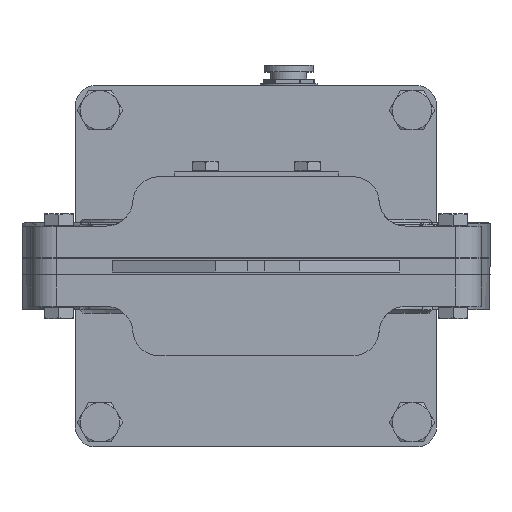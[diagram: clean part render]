
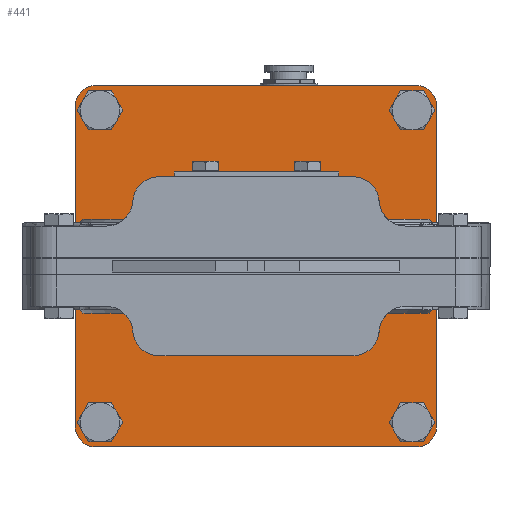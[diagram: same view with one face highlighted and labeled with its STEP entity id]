
A CAD part, front view. The second image highlights one B-rep face of the part: STEP entity #441.
In plain terms, the highlighted planar face has unit normal (0, -1, 0).
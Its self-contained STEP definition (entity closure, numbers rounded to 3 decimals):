
#441=ADVANCED_FACE('',(#15184,#15186,#15188,#15190,#15192,#15194,#15196,#15198,#15200,
#15202),#15204,.F.);
#15184=FACE_BOUND('',#15185,.T.);
#15185=EDGE_LOOP('',(#28787,#28788,#28789,#28790,#28791,#28792,#28793,#28794));
#15186=FACE_BOUND('',#15187,.T.);
#15187=EDGE_LOOP('',(#28795));
#15188=FACE_BOUND('',#15189,.T.);
#15189=EDGE_LOOP('',(#28796));
#15190=FACE_BOUND('',#15191,.T.);
#15191=EDGE_LOOP('',(#28797));
#15192=FACE_BOUND('',#15193,.T.);
#15193=EDGE_LOOP('',(#28798));
#15194=FACE_BOUND('',#15195,.T.);
#15195=EDGE_LOOP('',(#28799));
#15196=FACE_BOUND('',#15197,.T.);
#15197=EDGE_LOOP('',(#28800));
#15198=FACE_BOUND('',#15199,.T.);
#15199=EDGE_LOOP('',(#28801));
#15200=FACE_BOUND('',#15201,.T.);
#15201=EDGE_LOOP('',(#28802));
#15202=FACE_BOUND('',#15203,.T.);
#15203=EDGE_LOOP('',(#28803));
#15204=PLANE('',#15205);
#15205=AXIS2_PLACEMENT_3D('',#15206,#15207,#15208);
#15206=CARTESIAN_POINT('',(0.,513.,0.));
#15207=DIRECTION('',(0.,1.,0.));
#15208=DIRECTION('',(0.,0.,1.));
#28787=ORIENTED_EDGE('',*,*,#37669,.F.);
#28788=ORIENTED_EDGE('',*,*,#37670,.F.);
#28789=ORIENTED_EDGE('',*,*,#37671,.F.);
#28790=ORIENTED_EDGE('',*,*,#37672,.F.);
#28791=ORIENTED_EDGE('',*,*,#37673,.F.);
#28792=ORIENTED_EDGE('',*,*,#37674,.F.);
#28793=ORIENTED_EDGE('',*,*,#37675,.F.);
#28794=ORIENTED_EDGE('',*,*,#37676,.F.);
#28795=ORIENTED_EDGE('',*,*,#37677,.F.);
#28796=ORIENTED_EDGE('',*,*,#37678,.F.);
#28797=ORIENTED_EDGE('',*,*,#37679,.F.);
#28798=ORIENTED_EDGE('',*,*,#37680,.T.);
#28799=ORIENTED_EDGE('',*,*,#37681,.T.);
#28800=ORIENTED_EDGE('',*,*,#37682,.T.);
#28801=ORIENTED_EDGE('',*,*,#37683,.T.);
#28802=ORIENTED_EDGE('',*,*,#37684,.F.);
#28803=ORIENTED_EDGE('',*,*,#37685,.F.);
#37669=EDGE_CURVE('',#41727,#41728,#41729,.T.);
#37670=EDGE_CURVE('',#41730,#41727,#41731,.T.);
#37671=EDGE_CURVE('',#41732,#41730,#41733,.T.);
#37672=EDGE_CURVE('',#41734,#41732,#41735,.T.);
#37673=EDGE_CURVE('',#41736,#41734,#41737,.T.);
#37674=EDGE_CURVE('',#41738,#41736,#41739,.T.);
#37675=EDGE_CURVE('',#41740,#41738,#41741,.T.);
#37676=EDGE_CURVE('',#41728,#41740,#41742,.T.);
#37677=EDGE_CURVE('',#41743,#41743,#41744,.T.);
#37678=EDGE_CURVE('',#41745,#41745,#41746,.F.);
#37679=EDGE_CURVE('',#41747,#41747,#41748,.F.);
#37680=EDGE_CURVE('',#41749,#41749,#41750,.T.);
#37681=EDGE_CURVE('',#41751,#41751,#41752,.T.);
#37682=EDGE_CURVE('',#41753,#41753,#41754,.T.);
#37683=EDGE_CURVE('',#41755,#41755,#41756,.T.);
#37684=EDGE_CURVE('',#41757,#41757,#41758,.F.);
#37685=EDGE_CURVE('',#41759,#41759,#41760,.F.);
#41727=VERTEX_POINT('',#48279);
#41728=VERTEX_POINT('',#48280);
#41729=CIRCLE('',#48281,12.25);
#41730=VERTEX_POINT('',#48285);
#41731=LINE('',#48286,#48287);
#41732=VERTEX_POINT('',#48289);
#41733=CIRCLE('',#48290,12.25);
#41734=VERTEX_POINT('',#48294);
#41735=LINE('',#48295,#48296);
#41736=VERTEX_POINT('',#48298);
#41737=CIRCLE('',#48299,12.25);
#41738=VERTEX_POINT('',#48303);
#41739=LINE('',#48304,#48305);
#41740=VERTEX_POINT('',#48307);
#41741=CIRCLE('',#48308,12.25);
#41742=LINE('',#48312,#48313);
#41743=VERTEX_POINT('',#48315);
#41744=CIRCLE('',#48316,40.);
#41745=VERTEX_POINT('',#48320);
#41746=CIRCLE('',#48321,12.);
#41747=VERTEX_POINT('',#48325);
#41748=CIRCLE('',#48326,12.);
#41749=VERTEX_POINT('',#48330);
#41750=CIRCLE('',#48331,8.);
#41751=VERTEX_POINT('',#48335);
#41752=CIRCLE('',#48336,8.);
#41753=VERTEX_POINT('',#48340);
#41754=CIRCLE('',#48341,8.);
#41755=VERTEX_POINT('',#48345);
#41756=CIRCLE('',#48346,8.);
#41757=VERTEX_POINT('',#48350);
#41758=CIRCLE('',#48351,12.);
#41759=VERTEX_POINT('',#48355);
#41760=CIRCLE('',#48356,12.);
#48279=CARTESIAN_POINT('',(-97.75,513.,-110.));
#48280=CARTESIAN_POINT('',(-110.,513.,-97.75));
#48281=AXIS2_PLACEMENT_3D('',#48282,#48283,#48284);
#48282=CARTESIAN_POINT('',(-97.75,513.,-97.75));
#48283=DIRECTION('',(0.,1.,0.));
#48284=DIRECTION('',(0.,0.,-1.));
#48285=CARTESIAN_POINT('',(97.75,513.,-110.));
#48286=CARTESIAN_POINT('',(97.75,513.,-110.));
#48287=VECTOR('',#48288,1.);
#48288=DIRECTION('',(-1.,0.,0.));
#48289=CARTESIAN_POINT('',(110.,513.,-97.75));
#48290=AXIS2_PLACEMENT_3D('',#48291,#48292,#48293);
#48291=CARTESIAN_POINT('',(97.75,513.,-97.75));
#48292=DIRECTION('',(0.,1.,0.));
#48293=DIRECTION('',(1.,0.,0.));
#48294=CARTESIAN_POINT('',(110.,513.,97.75));
#48295=CARTESIAN_POINT('',(110.,513.,97.75));
#48296=VECTOR('',#48297,1.);
#48297=DIRECTION('',(0.,0.,-1.));
#48298=CARTESIAN_POINT('',(97.75,513.,110.));
#48299=AXIS2_PLACEMENT_3D('',#48300,#48301,#48302);
#48300=CARTESIAN_POINT('',(97.75,513.,97.75));
#48301=DIRECTION('',(0.,1.,0.));
#48302=DIRECTION('',(0.,0.,1.));
#48303=CARTESIAN_POINT('',(-97.75,513.,110.));
#48304=CARTESIAN_POINT('',(-97.75,513.,110.));
#48305=VECTOR('',#48306,1.);
#48306=DIRECTION('',(1.,0.,0.));
#48307=CARTESIAN_POINT('',(-110.,513.,97.75));
#48308=AXIS2_PLACEMENT_3D('',#48309,#48310,#48311);
#48309=CARTESIAN_POINT('',(-97.75,513.,97.75));
#48310=DIRECTION('',(0.,1.,0.));
#48311=DIRECTION('',(-1.,0.,0.));
#48312=CARTESIAN_POINT('',(-110.,513.,-97.75));
#48313=VECTOR('',#48314,1.);
#48314=DIRECTION('',(0.,0.,1.));
#48315=CARTESIAN_POINT('',(0.,513.,-40.));
#48316=AXIS2_PLACEMENT_3D('',#48317,#48318,#48319);
#48317=CARTESIAN_POINT('',(0.,513.,0.));
#48318=DIRECTION('',(0.,-1.,0.));
#48319=DIRECTION('',(0.,0.,-1.));
#48320=CARTESIAN_POINT('',(-83.,513.,95.));
#48321=AXIS2_PLACEMENT_3D('',#48322,#48323,#48324);
#48322=CARTESIAN_POINT('',(-95.,513.,95.));
#48323=DIRECTION('',(0.,1.,0.));
#48324=DIRECTION('',(1.,0.,0.));
#48325=CARTESIAN_POINT('',(-83.,513.,-95.));
#48326=AXIS2_PLACEMENT_3D('',#48327,#48328,#48329);
#48327=CARTESIAN_POINT('',(-95.,513.,-95.));
#48328=DIRECTION('',(0.,1.,0.));
#48329=DIRECTION('',(1.,0.,0.));
#48330=CARTESIAN_POINT('',(52.,513.,40.));
#48331=AXIS2_PLACEMENT_3D('',#48332,#48333,#48334);
#48332=CARTESIAN_POINT('',(60.,513.,40.));
#48333=DIRECTION('',(0.,1.,0.));
#48334=DIRECTION('',(-1.,0.,0.));
#48335=CARTESIAN_POINT('',(-68.,513.,-40.));
#48336=AXIS2_PLACEMENT_3D('',#48337,#48338,#48339);
#48337=CARTESIAN_POINT('',(-60.,513.,-40.));
#48338=DIRECTION('',(0.,1.,0.));
#48339=DIRECTION('',(-1.,0.,0.));
#48340=CARTESIAN_POINT('',(-68.,513.,40.));
#48341=AXIS2_PLACEMENT_3D('',#48342,#48343,#48344);
#48342=CARTESIAN_POINT('',(-60.,513.,40.));
#48343=DIRECTION('',(0.,1.,0.));
#48344=DIRECTION('',(-1.,0.,0.));
#48345=CARTESIAN_POINT('',(52.,513.,-40.));
#48346=AXIS2_PLACEMENT_3D('',#48347,#48348,#48349);
#48347=CARTESIAN_POINT('',(60.,513.,-40.));
#48348=DIRECTION('',(0.,1.,0.));
#48349=DIRECTION('',(-1.,0.,0.));
#48350=CARTESIAN_POINT('',(107.,513.,-95.));
#48351=AXIS2_PLACEMENT_3D('',#48352,#48353,#48354);
#48352=CARTESIAN_POINT('',(95.,513.,-95.));
#48353=DIRECTION('',(0.,1.,0.));
#48354=DIRECTION('',(1.,0.,0.));
#48355=CARTESIAN_POINT('',(107.,513.,95.));
#48356=AXIS2_PLACEMENT_3D('',#48357,#48358,#48359);
#48357=CARTESIAN_POINT('',(95.,513.,95.));
#48358=DIRECTION('',(0.,1.,0.));
#48359=DIRECTION('',(1.,0.,0.));
